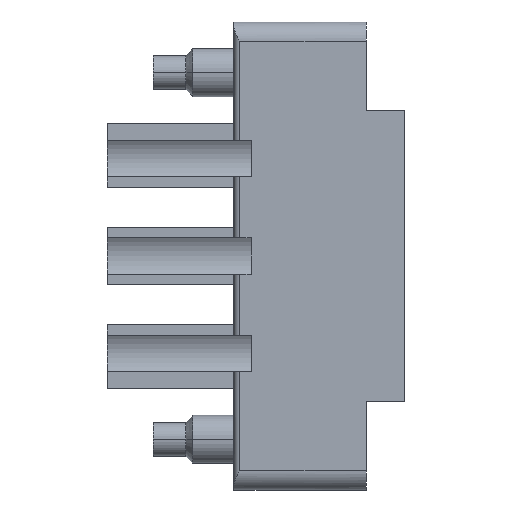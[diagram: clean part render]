
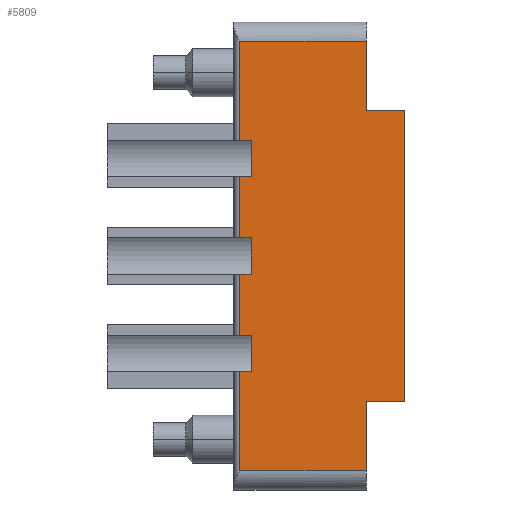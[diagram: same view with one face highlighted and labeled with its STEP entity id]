
A CAD part, front view. The second image highlights one B-rep face of the part: STEP entity #5809.
In plain terms, the highlighted planar face has unit normal (0, -1, 0).
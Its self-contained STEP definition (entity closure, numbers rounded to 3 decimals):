
#6=DIRECTION('',(0.,0.,-1.));
#7=VECTOR('',#6,1.897);
#8=CARTESIAN_POINT('',(0.9,-0.3,-10.16));
#9=LINE('',#8,#7);
#10=DIRECTION('',(0.,0.,-1.));
#11=VECTOR('',#10,1.897);
#12=CARTESIAN_POINT('',(0.9,-0.3,0.));
#13=LINE('',#12,#11);
#14=DIRECTION('',(1.,0.,0.));
#15=VECTOR('',#14,0.6);
#16=CARTESIAN_POINT('',(0.3,-0.3,0.));
#17=LINE('',#16,#15);
#18=DIRECTION('',(-1.,0.,0.));
#19=VECTOR('',#18,2.);
#20=CARTESIAN_POINT('',(8.9,-0.3,1.571));
#21=LINE('',#20,#19);
#22=DIRECTION('',(0.,0.,-1.));
#23=VECTOR('',#22,15.2);
#24=CARTESIAN_POINT('',(8.9,-0.3,1.571));
#25=LINE('',#24,#23);
#509=DIRECTION('',(0.,0.,-1.));
#510=VECTOR('',#509,3.6);
#511=CARTESIAN_POINT('',(6.9,-0.3,5.171));
#512=LINE('',#511,#510);
#542=DIRECTION('',(1.,0.,0.));
#543=VECTOR('',#542,6.6);
#544=CARTESIAN_POINT('',(0.3,-0.3,5.171));
#545=LINE('',#544,#543);
#1030=DIRECTION('',(-1.,0.,0.));
#1031=VECTOR('',#1030,2.);
#1032=CARTESIAN_POINT('',(8.9,-0.3,-13.629));
#1033=LINE('',#1032,#1031);
#1088=DIRECTION('',(0.,0.,-1.));
#1089=VECTOR('',#1088,3.6);
#1090=CARTESIAN_POINT('',(6.9,-0.3,-13.629));
#1091=LINE('',#1090,#1089);
#1130=DIRECTION('',(-1.,0.,0.));
#1131=VECTOR('',#1130,6.6);
#1132=CARTESIAN_POINT('',(6.9,-0.3,-17.229));
#1133=LINE('',#1132,#1131);
#1134=DIRECTION('',(0.,0.,1.));
#1135=VECTOR('',#1134,5.171);
#1136=CARTESIAN_POINT('',(0.3,-0.3,-17.229));
#1137=LINE('',#1136,#1135);
#1155=DIRECTION('',(1.,0.,0.));
#1156=VECTOR('',#1155,0.6);
#1157=CARTESIAN_POINT('',(0.3,-0.3,-12.057));
#1158=LINE('',#1157,#1156);
#1346=DIRECTION('',(-1.,0.,0.));
#1347=VECTOR('',#1346,0.6);
#1348=CARTESIAN_POINT('',(0.9,-0.3,-10.16));
#1349=LINE('',#1348,#1347);
#1358=DIRECTION('',(0.,0.,1.));
#1359=VECTOR('',#1358,3.183);
#1360=CARTESIAN_POINT('',(0.3,-0.3,-10.16));
#1361=LINE('',#1360,#1359);
#1366=DIRECTION('',(1.,0.,0.));
#1367=VECTOR('',#1366,0.6);
#1368=CARTESIAN_POINT('',(0.3,-0.3,-6.977));
#1369=LINE('',#1368,#1367);
#1541=DIRECTION('',(-1.,0.,0.));
#1542=VECTOR('',#1541,0.6);
#1543=CARTESIAN_POINT('',(0.9,-0.3,-5.08));
#1544=LINE('',#1543,#1542);
#1549=DIRECTION('',(0.,0.,1.));
#1550=VECTOR('',#1549,3.183);
#1551=CARTESIAN_POINT('',(0.3,-0.3,-5.08));
#1552=LINE('',#1551,#1550);
#1557=DIRECTION('',(1.,0.,0.));
#1558=VECTOR('',#1557,0.6);
#1559=CARTESIAN_POINT('',(0.3,-0.3,-1.897));
#1560=LINE('',#1559,#1558);
#1818=DIRECTION('',(0.,0.,1.));
#1819=VECTOR('',#1818,5.171);
#1820=CARTESIAN_POINT('',(0.3,-0.3,0.));
#1821=LINE('',#1820,#1819);
#1826=DIRECTION('',(0.,0.,1.));
#1827=VECTOR('',#1826,1.897);
#1828=CARTESIAN_POINT('',(0.9,-0.3,-6.977));
#1829=LINE('',#1828,#1827);
#4627=CARTESIAN_POINT('',(0.9,-0.3,0.));
#4628=CARTESIAN_POINT('',(0.9,-0.3,-1.897));
#4629=VERTEX_POINT('',#4627);
#4630=VERTEX_POINT('',#4628);
#4815=CARTESIAN_POINT('',(0.9,-0.3,-10.16));
#4816=CARTESIAN_POINT('',(0.9,-0.3,-12.057));
#4817=VERTEX_POINT('',#4815);
#4818=VERTEX_POINT('',#4816);
#4895=CARTESIAN_POINT('',(0.3,-0.3,0.));
#4896=VERTEX_POINT('',#4895);
#4916=CARTESIAN_POINT('',(8.9,-0.3,1.571));
#4917=VERTEX_POINT('',#4916);
#4918=CARTESIAN_POINT('',(6.9,-0.3,1.571));
#4919=VERTEX_POINT('',#4918);
#4957=CARTESIAN_POINT('',(6.9,-0.3,5.171));
#4958=VERTEX_POINT('',#4957);
#4959=CARTESIAN_POINT('',(0.3,-0.3,5.171));
#4960=VERTEX_POINT('',#4959);
#4989=CARTESIAN_POINT('',(8.9,-0.3,-13.629));
#4990=VERTEX_POINT('',#4989);
#4991=CARTESIAN_POINT('',(6.9,-0.3,-13.629));
#4992=VERTEX_POINT('',#4991);
#4993=CARTESIAN_POINT('',(6.9,-0.3,-17.229));
#4994=VERTEX_POINT('',#4993);
#4995=CARTESIAN_POINT('',(0.3,-0.3,-17.229));
#4996=VERTEX_POINT('',#4995);
#4997=CARTESIAN_POINT('',(0.3,-0.3,-12.057));
#4998=VERTEX_POINT('',#4997);
#4999=CARTESIAN_POINT('',(0.3,-0.3,-10.16));
#5000=VERTEX_POINT('',#4999);
#5001=CARTESIAN_POINT('',(0.3,-0.3,-6.977));
#5002=VERTEX_POINT('',#5001);
#5003=CARTESIAN_POINT('',(0.9,-0.3,-6.977));
#5004=VERTEX_POINT('',#5003);
#5005=CARTESIAN_POINT('',(0.9,-0.3,-5.08));
#5006=VERTEX_POINT('',#5005);
#5007=CARTESIAN_POINT('',(0.3,-0.3,-5.08));
#5008=VERTEX_POINT('',#5007);
#5009=CARTESIAN_POINT('',(0.3,-0.3,-1.897));
#5010=VERTEX_POINT('',#5009);
#5763=CARTESIAN_POINT('',(4.6,-0.3,-6.029));
#5764=DIRECTION('',(0.,1.,0.));
#5765=DIRECTION('',(-1.,0.,0.));
#5766=AXIS2_PLACEMENT_3D('',#5763,#5764,#5765);
#5767=PLANE('',#5766);
#5769=ORIENTED_EDGE('',*,*,#5768,.T.);
#5771=ORIENTED_EDGE('',*,*,#5770,.T.);
#5773=ORIENTED_EDGE('',*,*,#5772,.T.);
#5775=ORIENTED_EDGE('',*,*,#5774,.T.);
#5777=ORIENTED_EDGE('',*,*,#5776,.T.);
#5779=ORIENTED_EDGE('',*,*,#5778,.T.);
#5781=ORIENTED_EDGE('',*,*,#5780,.F.);
#5783=ORIENTED_EDGE('',*,*,#5782,.T.);
#5785=ORIENTED_EDGE('',*,*,#5784,.T.);
#5787=ORIENTED_EDGE('',*,*,#5786,.T.);
#5789=ORIENTED_EDGE('',*,*,#5788,.T.);
#5791=ORIENTED_EDGE('',*,*,#5790,.T.);
#5793=ORIENTED_EDGE('',*,*,#5792,.T.);
#5795=ORIENTED_EDGE('',*,*,#5794,.T.);
#5796=ORIENTED_EDGE('',*,*,#5752,.F.);
#5798=ORIENTED_EDGE('',*,*,#5797,.F.);
#5800=ORIENTED_EDGE('',*,*,#5799,.T.);
#5802=ORIENTED_EDGE('',*,*,#5801,.T.);
#5804=ORIENTED_EDGE('',*,*,#5803,.T.);
#5806=ORIENTED_EDGE('',*,*,#5805,.F.);
#5807=EDGE_LOOP('',(#5769,#5771,#5773,#5775,#5777,#5779,#5781,#5783,#5785,#5787,
#5789,#5791,#5793,#5795,#5796,#5798,#5800,#5802,#5804,#5806));
#5808=FACE_OUTER_BOUND('',#5807,.F.);
#5809=ADVANCED_FACE('',(#5808),#5767,.F.);
#5752=EDGE_CURVE('',#4629,#4630,#13,.T.);
#5768=EDGE_CURVE('',#4917,#4990,#25,.T.);
#5770=EDGE_CURVE('',#4990,#4992,#1033,.T.);
#5772=EDGE_CURVE('',#4992,#4994,#1091,.T.);
#5774=EDGE_CURVE('',#4994,#4996,#1133,.T.);
#5776=EDGE_CURVE('',#4996,#4998,#1137,.T.);
#5778=EDGE_CURVE('',#4998,#4818,#1158,.T.);
#5780=EDGE_CURVE('',#4817,#4818,#9,.T.);
#5782=EDGE_CURVE('',#4817,#5000,#1349,.T.);
#5784=EDGE_CURVE('',#5000,#5002,#1361,.T.);
#5786=EDGE_CURVE('',#5002,#5004,#1369,.T.);
#5788=EDGE_CURVE('',#5004,#5006,#1829,.T.);
#5790=EDGE_CURVE('',#5006,#5008,#1544,.T.);
#5792=EDGE_CURVE('',#5008,#5010,#1552,.T.);
#5794=EDGE_CURVE('',#5010,#4630,#1560,.T.);
#5797=EDGE_CURVE('',#4896,#4629,#17,.T.);
#5799=EDGE_CURVE('',#4896,#4960,#1821,.T.);
#5801=EDGE_CURVE('',#4960,#4958,#545,.T.);
#5803=EDGE_CURVE('',#4958,#4919,#512,.T.);
#5805=EDGE_CURVE('',#4917,#4919,#21,.T.);
